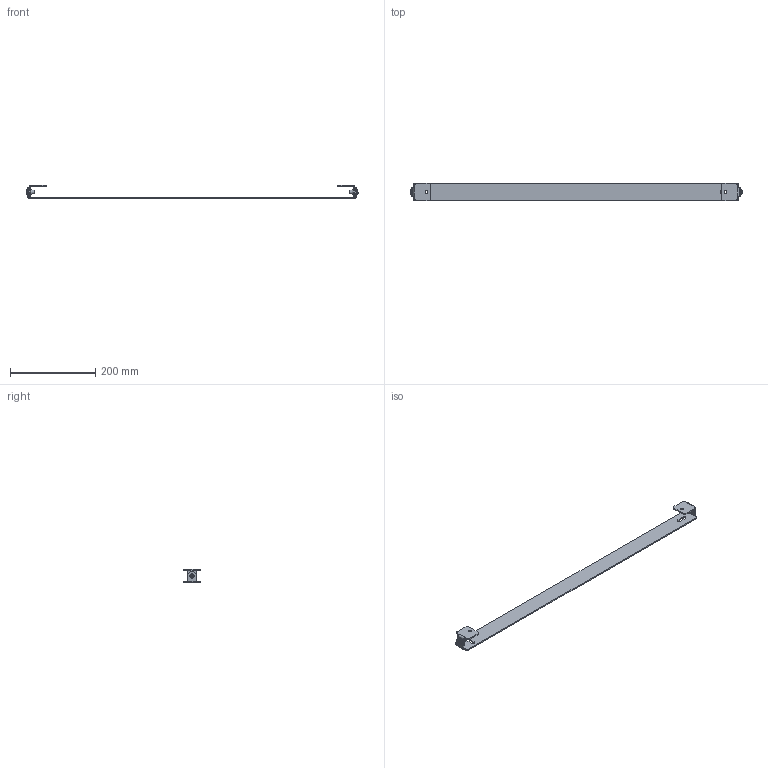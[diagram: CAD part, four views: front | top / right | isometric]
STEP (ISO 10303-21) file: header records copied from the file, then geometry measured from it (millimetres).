
FILE_DESCRIPTION(/* description */ (''),/* implementation_level */ '2;1');
FILE_NAME(/* name */ 'SH 80.stp',/* time_stamp */ '2024-09-25T09:25:54+02:00',/* author */ ('d.streicher'),/* organization */ (''),/* preprocessor_version */ 'ST-DEVELOPER v20',/* originating_system */ 'Autodesk Inventor 2025',/* authorisation */ '');
FILE_SCHEMA (('AUTOMOTIVE_DESIGN { 1 0 10303 214 3 1 1 }'));
Length unit declared in the file: millimetre
Products named in the file (5): SH 50 gebaut; SH 20 L; Blindniete M6; SH 80; DIN 7984 - M6 x 16
Assembly tree (7 placements, depth 2):
  SH 50 gebaut
    SH 20 L  x2
    Blindniete M6  x2
    SH 80
    DIN 7984 - M6 x 16  x2
Bounding box: 778 x 40 x 32 mm (x, y, z)
Volume: 106463.2 mm3; surface area: 79266.5 mm2
Topology: 7 solids, 7 shells, 156 faces, 382 edges, 242 vertices
Faces by surface type: plane 96, cylinder 46, cone 8, torus 6
Full cylindrical faces by diameter (mm): 6 x4, 6.5 x4, 7.5 x2, 8.5 x4, 9 x2, 10 x2
Entity records: 3334 total; most frequent: DIRECTION 558, CARTESIAN_POINT 551, ORIENTED_EDGE 514, EDGE_CURVE 257, AXIS2_PLACEMENT_3D 191, LINE 176, VECTOR 176, VERTEX_POINT 163
